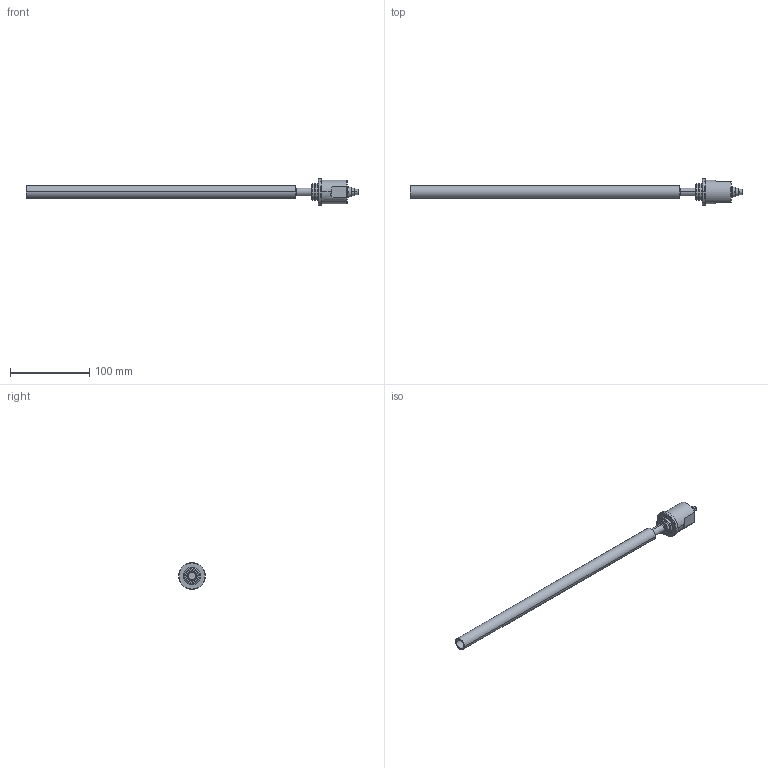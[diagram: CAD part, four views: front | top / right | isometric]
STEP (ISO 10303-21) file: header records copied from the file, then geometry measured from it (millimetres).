
FILE_DESCRIPTION((''),'2;1');
FILE_NAME('0000240826_PRT','2019-08-29T14:01:21',('pdmservice'),(''),'CREO PARAMETRIC BY PTC INC, 2018420','CREO PARAMETRIC BY PTC INC, 2018420','');
FILE_SCHEMA(('AUTOMOTIVE_DESIGN { 1 0 10303 214 1 1 1 1 }'));
Length unit declared in the file: millimetre
Products named in the file (1): 0000240826_PRT
Bounding box: 418.19 x 34 x 34 mm (x, y, z)
Volume: 23428.8 mm3; surface area: 49169.2 mm2
Topology: 10 solids, 19 shells, 200 faces, 503 edges, 332 vertices
Faces by surface type: cylinder 95, plane 54, cone 20, sphere 14, torus 13, bspline 4
Entity records: 9496 total; most frequent: CARTESIAN_POINT 1755, DIRECTION 1146, ORIENTED_EDGE 946, PRESENTATION_STYLE_ASSIGNMENT 548, STYLED_ITEM 508, AXIS2_PLACEMENT_3D 495, CURVE_STYLE 489, EDGE_CURVE 489
